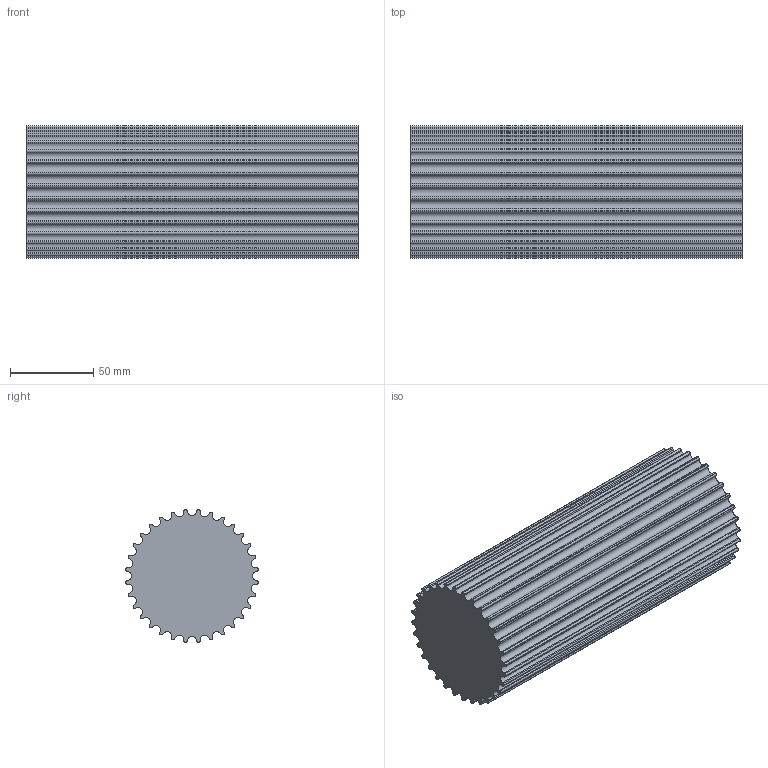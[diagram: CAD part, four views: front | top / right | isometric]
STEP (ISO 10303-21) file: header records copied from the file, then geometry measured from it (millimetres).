
FILE_DESCRIPTION( ( 'STEP AP203' ), '1' );
FILE_NAME( 'C:/Users/Stangenbergd/Desktop/17493201.stp', '2020-08-15T09:48:00', ( 'License CC BY-ND 4.0' ), ( 'CADENAS' ), ' ', 'PARTsolutions', ' ' );
FILE_SCHEMA( ( 'CONFIG_CONTROL_DESIGN' ) );
Length unit declared in the file: millimetre
Products named in the file (1): _17493201
Bounding box: 200 x 79.81 x 79.81 mm (x, y, z)
Volume: 904039.9 mm3; surface area: 82658.5 mm2
Topology: 1 solids, 1 shells, 194 faces, 576 edges, 384 vertices
Faces by surface type: cylinder 128, plane 66
Entity records: 6660 total; most frequent: DIRECTION 1222, CARTESIAN_POINT 1155, ORIENTED_EDGE 1152, EDGE_CURVE 576, AXIS2_PLACEMENT_3D 451, VERTEX_POINT 384, LINE 320, VECTOR 320
